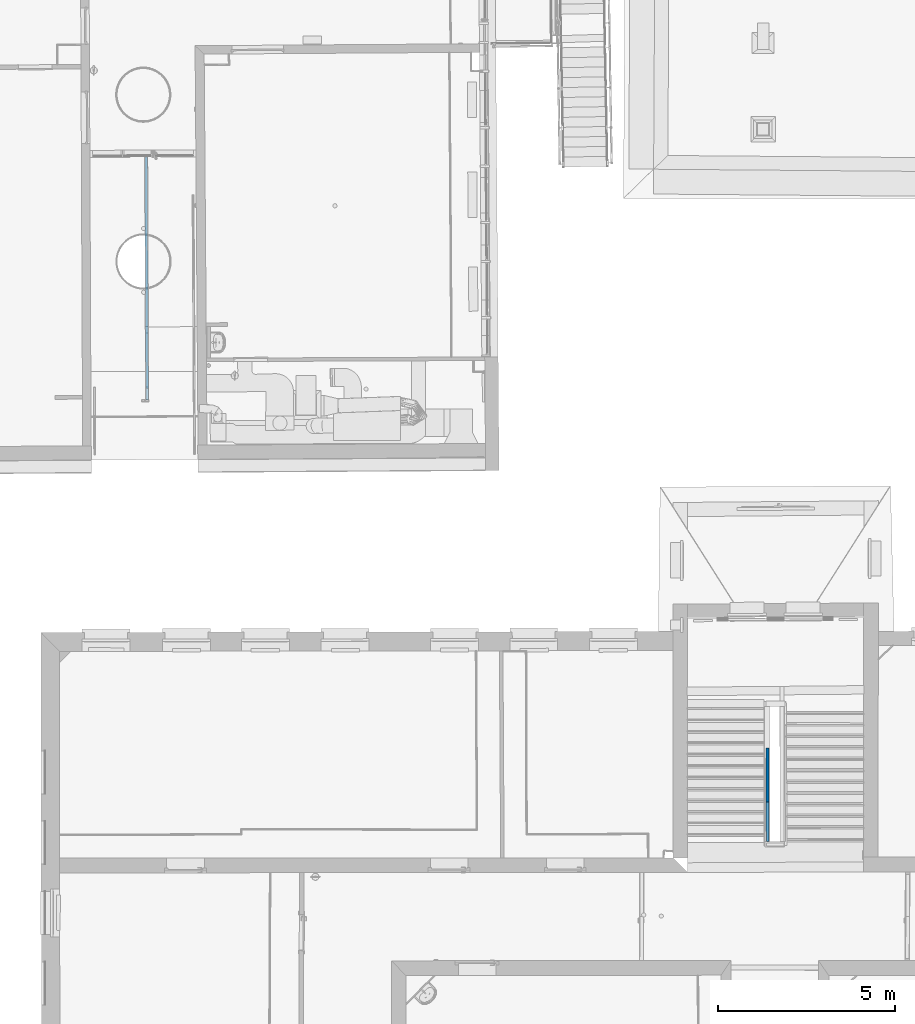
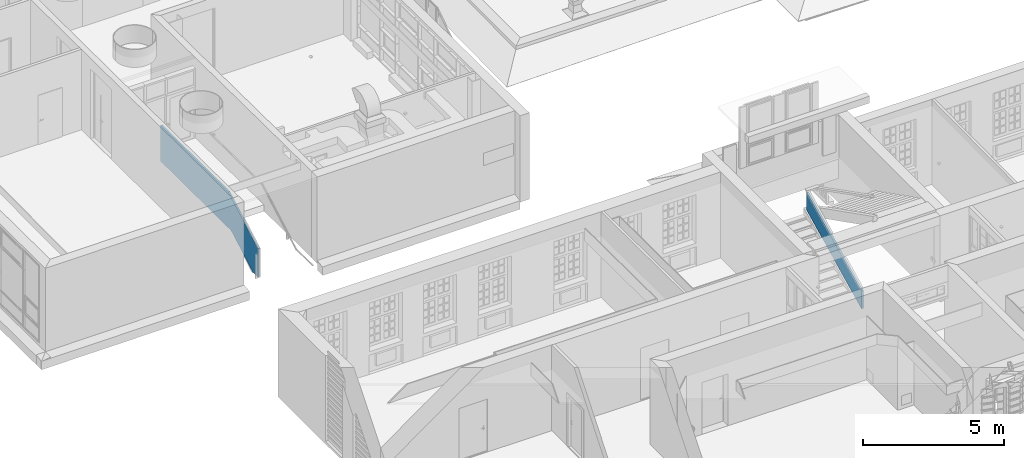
# One storey, part 72 of 158: 2 walls.
"""IFC2X3 building model written with IfcOpenShell, lengths in metres."""

import ifcopenshell
import ifcopenshell.guid

model = None  # the IFC model being written
_history = None  # IfcOwnerHistory: only IFC2X3 demands one
_inside = {}  # id of a spatial element -> (the spatial element, [elements in it])
_under = {}  # id of a project, library or spatial element -> (it, [spatial elements below it])
_declared = {}  # id of a project -> (the project, [libraries it declares])
_typed = {}  # id of a type object -> (the type object, [elements of that type])
_made_of = {}  # id of a material, layer set ... -> (it, [elements and type objects made of it])


def new_model(schema):
    """Start an empty IFC model of exactly this schema.

    Asked for "IFC4X3", IfcOpenShell would pick the latest addendum, in which some entities
    have other attributes; the version numbers below select the first issue.
    IFC2X3 requires an IfcOwnerHistory on every rooted entity: one is made here for all.
    """
    global model, _history
    if schema == "IFC4X3":
        model = ifcopenshell.file(schema_version=(4, 3, 0, 0))
    else:
        model = ifcopenshell.file(schema=schema)
    _inside.clear()
    _under.clear()
    _declared.clear()
    _typed.clear()
    _made_of.clear()
    _history = None
    if model.schema == "IFC2X3":
        org = make("IfcOrganization", Name="unknown")
        user = make(
            "IfcPersonAndOrganization",
            ThePerson=make("IfcPerson", FamilyName="unknown"),
            TheOrganization=org,
        )
        app = make(
            "IfcApplication",
            ApplicationDeveloper=org,
            Version="unknown",
            ApplicationFullName="unknown",
            ApplicationIdentifier="unknown",
        )
        _history = make(
            "IfcOwnerHistory",
            OwningUser=user,
            OwningApplication=app,
            ChangeAction="ADDED",
            CreationDate=0,
        )
    return model


def make(cls, **values):
    """One entity of the class cls with the attributes given. An attribute that is None is left unset."""
    return model.create_entity(
        cls, **{name: value for name, value in values.items() if value is not None}
    )


def entity(cls, *values):
    """Any entity or typed value of the class cls, its attributes in the order of the schema. None: left unset."""
    e = model.create_entity(cls)
    for i, value in enumerate(values):
        if value is not None:
            e[i] = value
    return e


def rooted(cls, **values):
    """An entity with a GlobalId (a new one), such as an element, a storey or a relation."""
    return make(cls, GlobalId=ifcopenshell.guid.new(), OwnerHistory=_history, **values)


def si_unit(unit_type, name, prefix=None):
    """IfcSIUnit, for example si_unit("LENGTHUNIT", "METRE", prefix="MILLI")."""
    return make("IfcSIUnit", UnitType=unit_type, Prefix=prefix, Name=name)


def converted_unit(unit_type, name, factor, base, dimensions=None, offset=None):
    """IfcConversionBasedUnit, such as the inch: factor (a typed value) times the base unit."""
    return make(
        "IfcConversionBasedUnit"
        if offset is None
        else "IfcConversionBasedUnitWithOffset",
        ConversionOffset=offset,
        Dimensions=None
        if dimensions is None
        else entity("IfcDimensionalExponents", *dimensions),
        UnitType=unit_type,
        Name=name,
        ConversionFactor=make(
            "IfcMeasureWithUnit", ValueComponent=factor, UnitComponent=base
        ),
    )


def derived_unit(unit_type, elements):
    """IfcDerivedUnit: a product of units, each with its exponent."""
    return make(
        "IfcDerivedUnit",
        Elements=[
            make("IfcDerivedUnitElement", Unit=unit, Exponent=power)
            for unit, power in elements
        ],
        UnitType=unit_type,
    )


def money_unit(currency):
    """IfcMonetaryUnit."""
    return make("IfcMonetaryUnit", Currency=currency)


def assignment(units):
    """IfcUnitAssignment: the units of a project."""
    return None if units is None else make("IfcUnitAssignment", Units=units)


def point(xyz):
    """IfcCartesianPoint."""
    return None if xyz is None else make("IfcCartesianPoint", Coordinates=xyz)


def direction(xyz):
    """IfcDirection."""
    return None if xyz is None else make("IfcDirection", DirectionRatios=xyz)


def frame(location, z_axis=None, x_axis=None):
    """IfcAxis2Placement3D, a coordinate frame: its origin and axes. An axis left out is left unset."""
    return make(
        "IfcAxis2Placement3D",
        Location=point(location),
        Axis=direction(z_axis),
        RefDirection=direction(x_axis),
    )


def origin_with_axes():
    """The frame at (0, 0, 0) with the z axis (0, 0, 1) and the x axis (1, 0, 0) written out."""
    return frame((0.0, 0.0, 0.0), z_axis=(0.0, 0.0, 1.0), x_axis=(1.0, 0.0, 0.0))


def place(relative_to, where):
    """IfcLocalPlacement: puts the frame where relative to a parent placement (None: the world)."""
    return make(
        "IfcLocalPlacement", PlacementRelTo=relative_to, RelativePlacement=where
    )


def context(
    kind, dimensions, precision=None, world=None, true_north=None, identifier=None
):
    """IfcGeometricRepresentationContext, for example the 3D "Model" context."""
    return make(
        "IfcGeometricRepresentationContext",
        ContextIdentifier=identifier,
        ContextType=kind,
        CoordinateSpaceDimension=dimensions,
        Precision=precision,
        WorldCoordinateSystem=world,
        TrueNorth=true_north,
    )


def subcontext(parent, identifier, kind, view, scale=None):
    """IfcGeometricRepresentationSubContext, for example "Body" below "Model"."""
    return make(
        "IfcGeometricRepresentationSubContext",
        ContextIdentifier=identifier,
        ContextType=kind,
        ParentContext=parent,
        TargetScale=scale,
        TargetView=view,
    )


def project(units=None, contexts=None):
    """IfcProject with its units and contexts."""
    return rooted(
        "IfcProject",
        Name="project",
        RepresentationContexts=contexts,
        UnitsInContext=assignment(units),
    )


def spatial(cls, under=None, at=None, **own):
    """A site, building, storey or space (cls), placed at a placement, below another one or the project."""
    s = rooted(cls, ObjectPlacement=at, **own)
    if under is not None:
        _under.setdefault(under.id(), (under, []))[1].append(s)
    return s


def polyline(points):
    """IfcPolyline through the points."""
    return make("IfcPolyline", Points=[point(p) for p in points])


def outline(outer, holes=None, kind="AREA"):
    """IfcArbitraryClosedProfileDef: a profile drawn as a closed curve; with holes, ...WithVoids."""
    if holes is None:
        return make("IfcArbitraryClosedProfileDef", ProfileType=kind, OuterCurve=outer)
    return make(
        "IfcArbitraryProfileDefWithVoids",
        ProfileType=kind,
        OuterCurve=outer,
        InnerCurves=holes,
    )


def extrude(swept, where, along, depth):
    """IfcExtrudedAreaSolid: the profile swept, set in the frame where, extruded along a direction by depth."""
    return make(
        "IfcExtrudedAreaSolid",
        SweptArea=swept,
        Position=where,
        ExtrudedDirection=direction(along),
        Depth=depth,
    )


def boolean(op, a, b):
    """IfcBooleanResult of two solids."""
    return make("IfcBooleanResult", Operator=op, FirstOperand=a, SecondOperand=b)


def faces_of(points, faces, orient=None, outer=None):
    """IfcFace entities. A face is a list of loops; a loop is a list of indices into points, from 0.

    orient and outer hold one flag for each loop. By default every Orientation is true, the
    first loop of a face is its IfcFaceOuterBound and the others are IfcFaceBound.
    """
    made = []
    for i, loops in enumerate(faces):
        bounds = []
        for j, loop in enumerate(loops):
            is_outer = j == 0 if outer is None else outer[i][j]
            bounds.append(
                make(
                    "IfcFaceOuterBound" if is_outer else "IfcFaceBound",
                    Bound=make("IfcPolyLoop", Polygon=[points[k] for k in loop]),
                    Orientation=True if orient is None else orient[i][j],
                )
            )
        made.append(make("IfcFace", Bounds=bounds))
    return made


def faceted_brep(points, faces, orient=None, outer=None, voids=None):
    """IfcFacetedBrep: a solid bounded by flat faces; with voids (closed shells), ...WithVoids."""
    shared = [point(p) for p in points]
    hull = make("IfcClosedShell", CfsFaces=faces_of(shared, faces, orient, outer))
    if voids is None:
        return make("IfcFacetedBrep", Outer=hull)
    return make(
        "IfcFacetedBrepWithVoids",
        Outer=hull,
        Voids=[
            make(cls, CfsFaces=faces_of(shared, fs, o, b)) for cls, fs, o, b in voids
        ],
    )


def shape(context_of_items, identifier, shape_type, items):
    """IfcShapeRepresentation: the items that make up one representation, for example the "Body"."""
    return make(
        "IfcShapeRepresentation",
        ContextOfItems=context_of_items,
        RepresentationIdentifier=identifier,
        RepresentationType=shape_type,
        Items=items,
    )


def material(Name=None, Category=None):
    """IfcMaterial."""
    return make("IfcMaterial", Name=Name, Category=Category)


def made_of(thing, what):
    """Note that an element or type object is made of a material, layer set ...; save() writes the relation."""
    if what is not None:
        _made_of.setdefault(what.id(), (what, []))[1].append(thing)
    return thing


def type_object(cls, material=None, **own):
    """A type object (cls), such as IfcWallType, which elements share."""
    return made_of(rooted(cls, **own), material)


def element(
    cls,
    number,
    at=None,
    inside=None,
    cuts=None,
    type_object=None,
    material=None,
    context=None,
    identifier="Body",
    shape_type=None,
    held_by="IfcProductDefinitionShape",
    body=None,
    shapes=None,
    **own,
):
    """One element of the class cls, such as IfcWall. Its Tag is "e" and its number.

    at: its placement. inside: the storey or other place that contains it. cuts: it is an
    opening in that element (IfcRelVoidsElement). A single representation is given by context,
    identifier, shape_type and body (its items); several are given by shapes. held_by: the class
    of the entity that holds the representations. save() writes the other relations.
    """
    e = rooted(cls, Tag="e%d" % number, ObjectPlacement=at, **own)
    if body is not None:
        shapes = [shape(context, identifier, shape_type, body)]
    if shapes is not None:
        e.Representation = make(held_by, Representations=shapes)
    if inside is not None:
        _inside.setdefault(inside.id(), (inside, []))[1].append(e)
    if cuts is not None:
        rooted(
            "IfcRelVoidsElement", RelatingBuildingElement=cuts, RelatedOpeningElement=e
        )
    if type_object is not None:
        _typed.setdefault(type_object.id(), (type_object, []))[1].append(e)
    return made_of(e, material)


def aggregate(whole, parts):
    """IfcRelAggregates: a whole, such as a stair, and the parts it consists of."""
    return rooted("IfcRelAggregates", RelatingObject=whole, RelatedObjects=parts)


def save(model, path):
    """Write the relations noted so far, then the file.

    IfcRelAggregates (storeys below a building ...), IfcRelContainedInSpatialStructure (elements
    in a storey), IfcRelDefinesByType, IfcRelAssociatesMaterial and IfcRelDeclares: one each for
    every whole, place, type object, material and project.
    """
    for whole, parts in _under.values():
        aggregate(whole, parts)
    for where, things in _inside.values():
        rooted(
            "IfcRelContainedInSpatialStructure",
            RelatedElements=things,
            RelatingStructure=where,
        )
    for kind, things in _typed.values():
        rooted("IfcRelDefinesByType", RelatedObjects=things, RelatingType=kind)
    for what, things in _made_of.values():
        rooted("IfcRelAssociatesMaterial", RelatedObjects=things, RelatingMaterial=what)
    for by, libraries in _declared.values():
        rooted("IfcRelDeclares", RelatingContext=by, RelatedDefinitions=libraries)
    model.write(path)


model = new_model("IFC2X3")

# Units and contexts
model_context = context("Model", 3, precision=1e-05, world=origin_with_axes(), true_north=direction((0.0, 1.0)))
body_context = subcontext(model_context, "Body", "Model", "MODEL_VIEW")
ifc_project = project(units=[si_unit("LENGTHUNIT", "METRE"), si_unit("AREAUNIT", "SQUARE_METRE"), si_unit("VOLUMEUNIT", "CUBIC_METRE"), converted_unit("PLANEANGLEUNIT", "DEGREE", entity("IfcPlaneAngleMeasure", 0.0174532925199), si_unit("PLANEANGLEUNIT", "RADIAN"), dimensions=[0, 0, 0, 0, 0, 0, 0]), money_unit("EUR"), converted_unit("TIMEUNIT", "Year", entity("IfcTimeMeasure", 31556926.0), si_unit("TIMEUNIT", "SECOND"), dimensions=[0, 0, 1, 0, 0, 0, 0]), si_unit("MASSUNIT", "GRAM", prefix="KILO"), si_unit("THERMODYNAMICTEMPERATUREUNIT", "DEGREE_CELSIUS"), si_unit("LUMINOUSINTENSITYUNIT", "LUMEN"), si_unit("ENERGYUNIT", "JOULE", prefix="MEGA"), derived_unit("THERMALCONDUCTANCEUNIT", [(si_unit("POWERUNIT", "WATT"), 1), (si_unit("LENGTHUNIT", "METRE"), -1), (si_unit("THERMODYNAMICTEMPERATUREUNIT", "KELVIN"), -1)]), derived_unit("SPECIFICHEATCAPACITYUNIT", [(si_unit("ENERGYUNIT", "JOULE"), 1), (si_unit("MASSUNIT", "GRAM", prefix="KILO"), -1), (si_unit("THERMODYNAMICTEMPERATUREUNIT", "KELVIN"), -1)]), derived_unit("MASSDENSITYUNIT", [(si_unit("MASSUNIT", "GRAM", prefix="KILO"), 1), (si_unit("VOLUMEUNIT", "CUBIC_METRE"), -1)])], contexts=[model_context])

# Site, building, storey
site_placement = place(None, origin_with_axes())
site = spatial("IfcSite", under=ifc_project, at=site_placement, Name="Gelände", CompositionType="ELEMENT")
building_placement = place(site_placement, origin_with_axes())
building = spatial("IfcBuilding", under=site, at=building_placement, Name="Gebäude", CompositionType="ELEMENT")
storey_placement = place(building_placement, origin_with_axes())
storey = spatial("IfcBuildingStorey", under=building, at=storey_placement, Name="ERDGESCHOSS", CompositionType="ELEMENT", Elevation=0.0)

# Walls
ifc_material_1 = material(Name="05_ALLGEMEIN - TRAGENDE BAUTEILE")
wall_type_1 = type_object("IfcWallType", Name="05_ALLGEMEIN - TRAGENDE BAUTEILE 82", PredefinedType="ELEMENTEDWALL")
wall_1_placement = place(storey_placement, frame((-7.53816169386, 20.0092954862, -0.12), z_axis=(0.0, 0.0, 1.0), x_axis=(-0.00167760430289, 0.999998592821, 0.0)))
element("IfcWall", 1, at=wall_1_placement, inside=storey, type_object=wall_type_1, material=ifc_material_1, Name="Wand-038", ObjectType="ELEMENTEDWALL", context=body_context, shape_type="CSG", body=[
    boolean("DIFFERENCE", extrude(outline(polyline([(0.0, 0.0), (4.07193127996, 0.0), (4.07193127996, 0.0820226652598), (0.0, 0.0820226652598), (0.0, 0.0)])), origin_with_axes(), (0.0, 0.0, 1.0), 2.85778838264), faceted_brep([(0.0, 0.0820226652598, 0.0), (4.07193127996, 0.0820226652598, 0.0), (4.07193127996, 0.0, 0.0), (0.0, 0.0, 0.0), (0.131210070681, 0.0820226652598, 0.936022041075), (0.0871884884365, 0.0820226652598, 0.936022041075), (0.0871884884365, 0.0820226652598, 0.16076975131), (3.97192255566, 0.0820226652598, 2.09896464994), (3.97192255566, 0.0820226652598, 2.85778694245), (4.07193127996, 0.0820226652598, 2.85778838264), (0.0, 0.0820226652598, 2.85778838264), (3.96531520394, 0.0820226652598, 2.85778838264), (0.131210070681, 0.0820226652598, 0.938024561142), (4.07193127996, 0.0, 2.85778838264), (3.97083906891, 0.0, 2.09845787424), (0.0870508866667, 0.0, 0.160734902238), (0.0870508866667, 0.0, 0.936022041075), (0.130776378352, 0.0, 0.936022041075), (0.130776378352, 0.0, 0.937807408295), (3.96531520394, 0.0, 2.85778838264), (0.0, 0.0, 2.85778838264), (3.97083906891, 0.0, 2.85778694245)], [[[0, 1, 2, 3]], [[4, 5, 6, 7, 8, 9, 1, 0, 10, 11, 12]], [[1, 9, 13, 2]], [[14, 15, 16, 17, 18, 19, 20, 3, 2, 13, 21]], [[10, 0, 3, 20]], [[5, 4, 17, 16]], [[6, 5, 16, 15]], [[7, 6, 15, 14]], [[8, 7, 14, 21]], [[9, 8, 21, 13]], [[11, 10, 20, 19]], [[12, 11, 19, 18]], [[4, 12, 18, 17]]])),
])
ifc_material_2 = material(Name="01_ALLGEMEIN - BAUTEIL")
wall_type_2 = type_object("IfcWallType", Name="01_ALLGEMEIN - BAUTEIL 70", PredefinedType="ELEMENTEDWALL")
wall_2_placement = place(storey_placement, frame((-25.0406703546, 32.5892198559, -0.0283195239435), z_axis=(0.0, 0.0, 1.0), x_axis=(-0.00432713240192, 0.999990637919, 0.0)))
element("IfcWall", 2, at=wall_2_placement, inside=storey, type_object=wall_type_2, material=ifc_material_2, Name="Wand-030", ObjectType="ELEMENTEDWALL", context=body_context, shape_type="CSG", body=[
    boolean("DIFFERENCE", extrude(outline(polyline([(0.0, 0.0), (6.87023104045, 0.0), (6.87023104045, 0.07), (0.0, 0.07), (0.0, 0.0)])), origin_with_axes(), (0.0, 0.0, 1.0), 4.51), faceted_brep([(0.0, 0.0, 0.0), (0.0, 0.0, 1.22294610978), (0.0, 0.0, 4.51), (0.0, 0.07, 4.51), (0.0, 0.07, 0.0), (0.000103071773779, 0.07, 0.0), (0.000103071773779, 0.07, 1.22294610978), (1.87713343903, 0.0, 0.870640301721), (0.36624883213, 0.0, 0.0), (6.87023104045, 0.0, 0.0), (6.87023104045, 0.0, 4.51), (2.06663087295, 0.0, 2.41619639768), (2.06663087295, 0.0, 2.42393241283), (6.84023099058, 0.0, 2.42393241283), (6.84023099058, 0.0, 1.36875852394), (6.84023099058, 0.0, 1.36831952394), (2.05162734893, 0.0, 1.36831952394), (2.05162734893, 0.0, 1.08831952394), (1.88317115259, 0.0, 1.08831952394), (1.88317115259, 0.0, 0.870640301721), (6.87023104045, 0.07, 4.51), (6.87023104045, 0.07, 0.0), (0.366361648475, 0.07, 0.0), (1.87718834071, 0.07, 0.870602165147), (1.87718834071, 0.07, 0.870640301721), (6.84010335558, 0.07, 0.870640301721), (6.84010335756, 0.07, 1.36875852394), (6.84023099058, 0.07, 1.36875852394), (6.84023099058, 0.07, 2.42393241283), (2.06673394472, 0.07, 2.42393241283), (2.06673394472, 0.07, 2.41619639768), (6.84021770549, 0.00728617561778, 0.870640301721), (6.84021770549, 0.00728617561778, 1.08831952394), (6.84021770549, 0.00728617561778, 1.36831952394), (2.05161174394, 0.00514016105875, 1.36831952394), (2.05161174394, 0.00514016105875, 1.08831952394), (1.88314900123, 0.00506466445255, 1.08831952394), (1.88314900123, 0.00506466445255, 0.870640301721)], [[[0, 1, 2, 3, 4]], [[1, 0, 5, 6]], [[7, 8, 9, 10, 2, 1, 11, 12, 13, 14, 15, 16, 17, 18, 19]], [[3, 2, 10, 20]], [[6, 5, 4, 3, 20, 21, 22, 23, 24, 25, 26, 27, 28, 29, 30]], [[5, 0, 4]], [[11, 1, 6, 30]], [[22, 8, 7, 23]], [[8, 22, 21, 9]], [[10, 9, 21, 20]], [[12, 11, 30, 29]], [[13, 12, 29, 28]], [[14, 13, 28, 27]], [[15, 14, 26, 25, 31, 32, 33]], [[16, 15, 33, 34]], [[17, 16, 34, 35]], [[18, 17, 35, 36]], [[19, 18, 36, 37]], [[7, 19, 37, 24]], [[24, 23, 7]], [[25, 24, 37, 31]], [[27, 26, 14]], [[31, 37, 36, 35, 34, 33, 32]]])),
])

save(model, "model.ifc")
